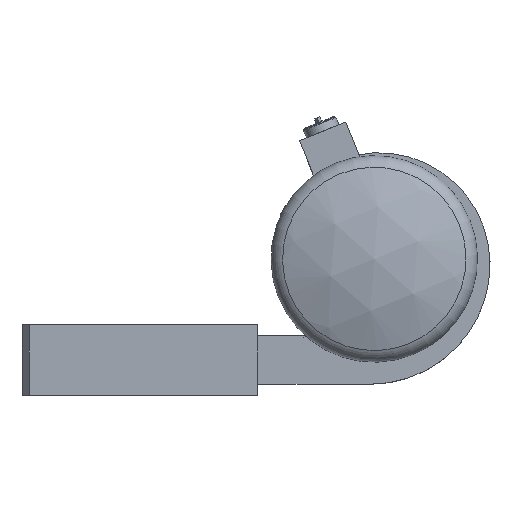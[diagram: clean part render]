
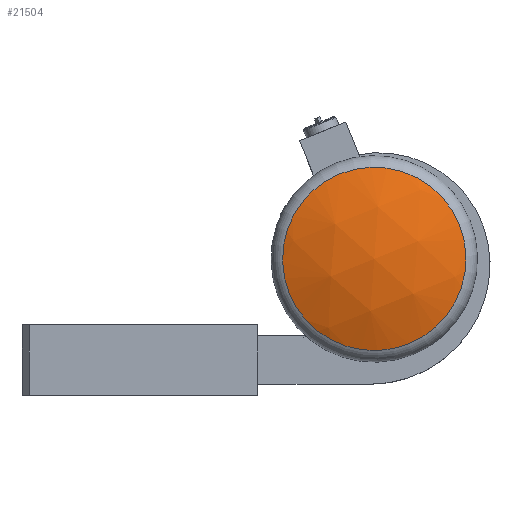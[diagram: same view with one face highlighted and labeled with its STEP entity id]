
A CAD part, top view. The second image highlights one B-rep face of the part: STEP entity #21504.
In plain terms, the highlighted spherical face has radius 400 mm.
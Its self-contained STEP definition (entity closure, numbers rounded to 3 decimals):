
#14=SPHERICAL_SURFACE('',#22606,400.);
#353=CIRCLE('',#22607,157.638);
#2713=FACE_OUTER_BOUND('',#3962,.T.);
#3962=EDGE_LOOP('',(#17569));
#10561=VERTEX_POINT('',#39957);
#13089=EDGE_CURVE('',#10561,#10561,#353,.T.);
#17569=ORIENTED_EDGE('',*,*,#13089,.T.);
#21504=ADVANCED_FACE('',(#2713),#14,.T.);
#22606=AXIS2_PLACEMENT_3D('',#39956,#25161,#25162);
#22607=AXIS2_PLACEMENT_3D('',#39958,#25163,#25164);
#25161=DIRECTION('center_axis',(0.375,-0.927,0.));
#25162=DIRECTION('ref_axis',(0.927,0.375,0.));
#25163=DIRECTION('center_axis',(0.,0.,
1.));
#25164=DIRECTION('ref_axis',(-0.927,-0.375,0.));
#39956=CARTESIAN_POINT('Origin',(0.,0.,
-39.5));
#39957=CARTESIAN_POINT('',(-146.159,-59.052,328.128));
#39958=CARTESIAN_POINT('Origin',(0.,0.,
328.128));
